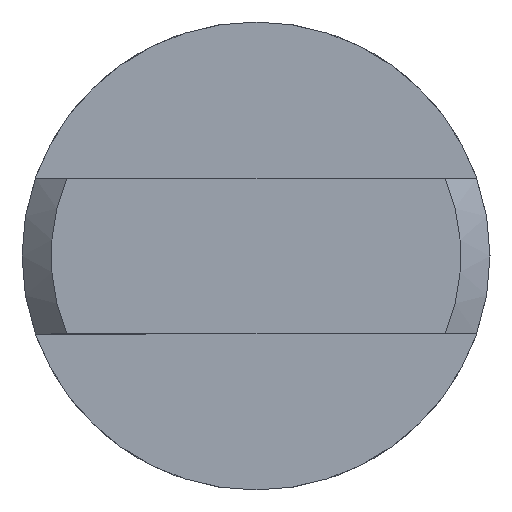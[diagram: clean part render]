
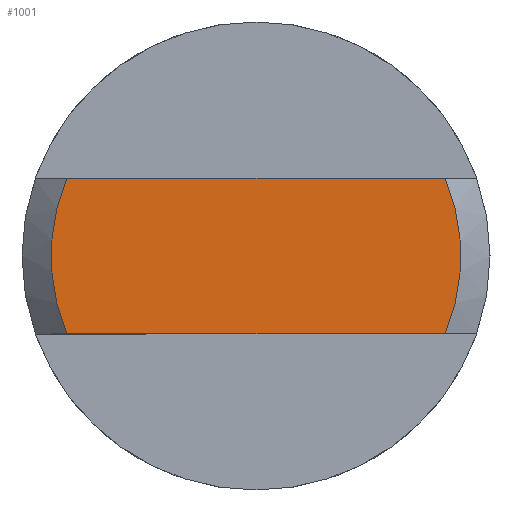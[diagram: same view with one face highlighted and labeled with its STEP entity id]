
A CAD part, left-side view. The second image highlights one B-rep face of the part: STEP entity #1001.
In plain terms, the highlighted planar face has unit normal (-1, 0, 0).
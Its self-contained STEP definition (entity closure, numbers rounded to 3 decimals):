
#150 = LINE ( 'NONE', #1006, #691 ) ;
#206 = CIRCLE ( 'NONE', #729, 5.25 ) ;
#251 = ORIENTED_EDGE ( 'NONE', *, *, #784, .F. ) ;
#271 = DIRECTION ( 'NONE',  ( 0., -1., 0. ) ) ;
#295 = CIRCLE ( 'NONE', #608, 5.25 ) ;
#419 = DIRECTION ( 'NONE',  ( 0., 0., -1. ) ) ;
#481 = CARTESIAN_POINT ( 'NONE',  ( -28.25, 0., 0. ) ) ;
#491 = EDGE_CURVE ( 'NONE', #629, #747, #206, .T. ) ;
#502 = FACE_OUTER_BOUND ( 'NONE', #816, .T. ) ;
#508 = CARTESIAN_POINT ( 'NONE',  ( -28.25, 4.854, 2. ) ) ;
#527 = ORIENTED_EDGE ( 'NONE', *, *, #491, .T. ) ;
#539 = VERTEX_POINT ( 'NONE', #706 ) ;
#552 = DIRECTION ( 'NONE',  ( 0., 1., 0. ) ) ;
#554 = DIRECTION ( 'NONE',  ( -1., 0., 0. ) ) ;
#570 = LINE ( 'NONE', #739, #975 ) ;
#576 = CARTESIAN_POINT ( 'NONE',  ( -28.25, 4.854, -2. ) ) ;
#608 = AXIS2_PLACEMENT_3D ( 'NONE', #640, #647, #882 ) ;
#617 = ORIENTED_EDGE ( 'NONE', *, *, #677, .F. ) ;
#629 = VERTEX_POINT ( 'NONE', #508 ) ;
#640 = CARTESIAN_POINT ( 'NONE',  ( -28.25, 0., 0. ) ) ;
#647 = DIRECTION ( 'NONE',  ( -1., 0., 0. ) ) ;
#660 = CARTESIAN_POINT ( 'NONE',  ( -28.25, -4.854, -2. ) ) ;
#677 = EDGE_CURVE ( 'NONE', #629, #539, #570, .T. ) ;
#691 = VECTOR ( 'NONE', #552, 1000. ) ;
#706 = CARTESIAN_POINT ( 'NONE',  ( -28.25, -4.854, 2. ) ) ;
#711 = ORIENTED_EDGE ( 'NONE', *, *, #977, .T. ) ;
#729 = AXIS2_PLACEMENT_3D ( 'NONE', #883, #554, #872 ) ;
#738 = DIRECTION ( 'NONE',  ( 1., 0., 0. ) ) ;
#739 = CARTESIAN_POINT ( 'NONE',  ( -28.25, 0., 2. ) ) ;
#747 = VERTEX_POINT ( 'NONE', #576 ) ;
#751 = VERTEX_POINT ( 'NONE', #660 ) ;
#784 = EDGE_CURVE ( 'NONE', #751, #747, #150, .T. ) ;
#816 = EDGE_LOOP ( 'NONE', ( #617, #527, #251, #711 ) ) ;
#817 = PLANE ( 'NONE',  #877 ) ;
#872 = DIRECTION ( 'NONE',  ( 0., 0., -1. ) ) ;
#877 = AXIS2_PLACEMENT_3D ( 'NONE', #481, #738, #419 ) ;
#882 = DIRECTION ( 'NONE',  ( 0., 0., -1. ) ) ;
#883 = CARTESIAN_POINT ( 'NONE',  ( -28.25, 0., 0. ) ) ;
#975 = VECTOR ( 'NONE', #271, 1000. ) ;
#977 = EDGE_CURVE ( 'NONE', #751, #539, #295, .T. ) ;
#1001 = ADVANCED_FACE ( 'NONE', ( #502 ), #817, .F. ) ;
#1006 = CARTESIAN_POINT ( 'NONE',  ( -28.25, 0., -2. ) ) ;
